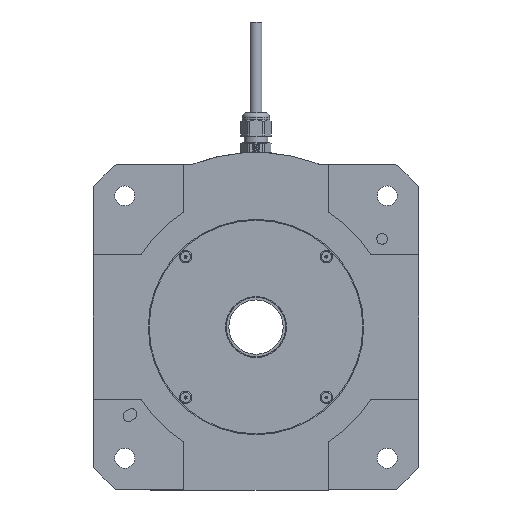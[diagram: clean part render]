
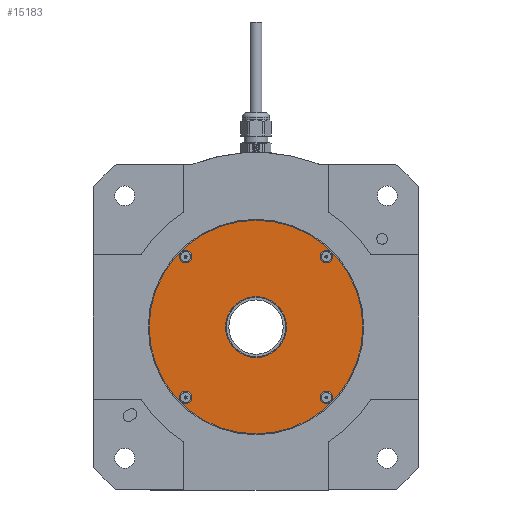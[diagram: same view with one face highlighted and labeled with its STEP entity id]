
A CAD part, front view. The second image highlights one B-rep face of the part: STEP entity #15183.
In plain terms, the highlighted planar face has unit normal (0, -1, 0).
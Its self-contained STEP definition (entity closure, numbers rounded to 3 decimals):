
#325 = FACE_BOUND ( 'NONE', #7493, .T. ) ;
#399 = EDGE_CURVE ( 'NONE', #23488, #20926, #9911, .T. ) ;
#423 = AXIS2_PLACEMENT_3D ( 'NONE', #22221, #4414, #12451 ) ;
#429 = ORIENTED_EDGE ( 'NONE', *, *, #18965, .T. ) ;
#623 = DIRECTION ( 'NONE',  ( 1., 0., 0. ) ) ;
#861 = CARTESIAN_POINT ( 'NONE',  ( 16.8, 1.5, 0. ) ) ;
#1501 = CARTESIAN_POINT ( 'NONE',  ( 0., 1.5, 0. ) ) ;
#2010 = EDGE_CURVE ( 'NONE', #20053, #22693, #10745, .T. ) ;
#2053 = FACE_BOUND ( 'NONE', #25037, .T. ) ;
#2161 = FACE_BOUND ( 'NONE', #15529, .T. ) ;
#2169 = DIRECTION ( 'NONE',  ( 1., 0., 0. ) ) ;
#2255 = DIRECTION ( 'NONE',  ( 0., 1., 0. ) ) ;
#2304 = CARTESIAN_POINT ( 'NONE',  ( 40.891, 1.5, 38.891 ) ) ;
#2397 = CIRCLE ( 'NONE', #14987, 2. ) ;
#2786 = VERTEX_POINT ( 'NONE', #2304 ) ;
#2904 = ORIENTED_EDGE ( 'NONE', *, *, #11982, .T. ) ;
#4123 = DIRECTION ( 'NONE',  ( 1., 0., 0. ) ) ;
#4414 = DIRECTION ( 'NONE',  ( 0., 1., 0. ) ) ;
#4597 = DIRECTION ( 'NONE',  ( 0., 1., 0. ) ) ;
#4661 = CARTESIAN_POINT ( 'NONE',  ( 36.891, 1.5, -38.891 ) ) ;
#4745 = CIRCLE ( 'NONE', #11482, 2. ) ;
#4912 = ORIENTED_EDGE ( 'NONE', *, *, #399, .T. ) ;
#5029 = DIRECTION ( 'NONE',  ( 0., 1., 0. ) ) ;
#5114 = AXIS2_PLACEMENT_3D ( 'NONE', #19691, #9735, #25290 ) ;
#5347 = DIRECTION ( 'NONE',  ( 1., 0., 0. ) ) ;
#5749 = EDGE_CURVE ( 'NONE', #20926, #23488, #6732, .T. ) ;
#5803 = ORIENTED_EDGE ( 'NONE', *, *, #25583, .F. ) ;
#6318 = CARTESIAN_POINT ( 'NONE',  ( -38.891, 1.5, -38.891 ) ) ;
#6477 = FACE_BOUND ( 'NONE', #19977, .T. ) ;
#6732 = CIRCLE ( 'NONE', #19313, 16.8 ) ;
#6992 = CARTESIAN_POINT ( 'NONE',  ( 0., 1.5, 0. ) ) ;
#6994 = DIRECTION ( 'NONE',  ( 1., 0., 0. ) ) ;
#7177 = CARTESIAN_POINT ( 'NONE',  ( -38.891, 1.5, 38.891 ) ) ;
#7420 = CARTESIAN_POINT ( 'NONE',  ( -59., 1.5, 0. ) ) ;
#7493 = EDGE_LOOP ( 'NONE', ( #8240, #23764 ) ) ;
#7818 = CIRCLE ( 'NONE', #14148, 2. ) ;
#8105 = AXIS2_PLACEMENT_3D ( 'NONE', #24759, #5029, #6994 ) ;
#8240 = ORIENTED_EDGE ( 'NONE', *, *, #2010, .T. ) ;
#8379 = CARTESIAN_POINT ( 'NONE',  ( 38.891, 1.5, 38.891 ) ) ;
#8391 = ORIENTED_EDGE ( 'NONE', *, *, #19211, .T. ) ;
#8446 = FACE_BOUND ( 'NONE', #9824, .T. ) ;
#8620 = CARTESIAN_POINT ( 'NONE',  ( -40.891, 1.5, 38.891 ) ) ;
#9179 = ORIENTED_EDGE ( 'NONE', *, *, #17764, .T. ) ;
#9517 = DIRECTION ( 'NONE',  ( 0., 1., 0. ) ) ;
#9735 = DIRECTION ( 'NONE',  ( 0., 1., 0. ) ) ;
#9824 = EDGE_LOOP ( 'NONE', ( #4912, #15236 ) ) ;
#9911 = CIRCLE ( 'NONE', #12827, 16.8 ) ;
#10161 = CARTESIAN_POINT ( 'NONE',  ( 38.891, 1.5, 38.891 ) ) ;
#10174 = CARTESIAN_POINT ( 'NONE',  ( 0., 1.5, 0. ) ) ;
#10382 = VERTEX_POINT ( 'NONE', #23950 ) ;
#10745 = CIRCLE ( 'NONE', #22432, 2. ) ;
#11098 = EDGE_CURVE ( 'NONE', #2786, #10382, #12413, .T. ) ;
#11213 = CARTESIAN_POINT ( 'NONE',  ( -38.891, 1.5, -38.891 ) ) ;
#11482 = AXIS2_PLACEMENT_3D ( 'NONE', #11213, #22320, #12427 ) ;
#11974 = AXIS2_PLACEMENT_3D ( 'NONE', #6992, #15008, #21123 ) ;
#11982 = EDGE_CURVE ( 'NONE', #21393, #20422, #20551, .T. ) ;
#12369 = CARTESIAN_POINT ( 'NONE',  ( -38.891, 1.5, 38.891 ) ) ;
#12413 = CIRCLE ( 'NONE', #17446, 2. ) ;
#12427 = DIRECTION ( 'NONE',  ( 1., 0., 0. ) ) ;
#12451 = DIRECTION ( 'NONE',  ( 1., 0., 0. ) ) ;
#12462 = VERTEX_POINT ( 'NONE', #21031 ) ;
#12827 = AXIS2_PLACEMENT_3D ( 'NONE', #14020, #16079, #2169 ) ;
#12860 = VERTEX_POINT ( 'NONE', #7420 ) ;
#13820 = EDGE_CURVE ( 'NONE', #12860, #15214, #16524, .T. ) ;
#14020 = CARTESIAN_POINT ( 'NONE',  ( 0., 1.5, 0. ) ) ;
#14022 = VERTEX_POINT ( 'NONE', #16658 ) ;
#14148 = AXIS2_PLACEMENT_3D ( 'NONE', #6318, #2255, #18246 ) ;
#14372 = CARTESIAN_POINT ( 'NONE',  ( 59., 1.5, 0. ) ) ;
#14503 = DIRECTION ( 'NONE',  ( 0., 1., 0. ) ) ;
#14987 = AXIS2_PLACEMENT_3D ( 'NONE', #7177, #23531, #5347 ) ;
#15008 = DIRECTION ( 'NONE',  ( 0., 1., 0. ) ) ;
#15148 = DIRECTION ( 'NONE',  ( 1., 0., 0. ) ) ;
#15183 = ADVANCED_FACE ( 'NONE', ( #2053, #2161, #325, #6477, #20219, #8446 ), #22079, .F. ) ;
#15214 = VERTEX_POINT ( 'NONE', #14372 ) ;
#15236 = ORIENTED_EDGE ( 'NONE', *, *, #5749, .T. ) ;
#15331 = AXIS2_PLACEMENT_3D ( 'NONE', #10174, #14503, #22447 ) ;
#15529 = EDGE_LOOP ( 'NONE', ( #16280, #8391 ) ) ;
#16079 = DIRECTION ( 'NONE',  ( 0., 1., 0. ) ) ;
#16118 = EDGE_CURVE ( 'NONE', #14022, #12462, #7818, .T. ) ;
#16280 = ORIENTED_EDGE ( 'NONE', *, *, #16118, .T. ) ;
#16497 = DIRECTION ( 'NONE',  ( 0., 1., 0. ) ) ;
#16524 = CIRCLE ( 'NONE', #11974, 59. ) ;
#16658 = CARTESIAN_POINT ( 'NONE',  ( -36.891, 1.5, -38.891 ) ) ;
#16794 = EDGE_CURVE ( 'NONE', #22693, #20053, #2397, .T. ) ;
#16834 = ORIENTED_EDGE ( 'NONE', *, *, #13820, .F. ) ;
#17112 = CIRCLE ( 'NONE', #25855, 2. ) ;
#17446 = AXIS2_PLACEMENT_3D ( 'NONE', #10161, #21936, #4123 ) ;
#17764 = EDGE_CURVE ( 'NONE', #10382, #2786, #17112, .T. ) ;
#17784 = EDGE_LOOP ( 'NONE', ( #16834, #5803 ) ) ;
#18246 = DIRECTION ( 'NONE',  ( 1., 0., 0. ) ) ;
#18419 = CIRCLE ( 'NONE', #423, 59. ) ;
#18823 = CARTESIAN_POINT ( 'NONE',  ( -36.891, 1.5, 38.891 ) ) ;
#18965 = EDGE_CURVE ( 'NONE', #20422, #21393, #23569, .T. ) ;
#19211 = EDGE_CURVE ( 'NONE', #12462, #14022, #4745, .T. ) ;
#19313 = AXIS2_PLACEMENT_3D ( 'NONE', #1501, #9517, #15148 ) ;
#19461 = CARTESIAN_POINT ( 'NONE',  ( 40.891, 1.5, -38.891 ) ) ;
#19612 = ORIENTED_EDGE ( 'NONE', *, *, #11098, .T. ) ;
#19691 = CARTESIAN_POINT ( 'NONE',  ( 38.891, 1.5, -38.891 ) ) ;
#19977 = EDGE_LOOP ( 'NONE', ( #19612, #9179 ) ) ;
#20053 = VERTEX_POINT ( 'NONE', #18823 ) ;
#20219 = FACE_OUTER_BOUND ( 'NONE', #17784, .T. ) ;
#20422 = VERTEX_POINT ( 'NONE', #19461 ) ;
#20551 = CIRCLE ( 'NONE', #5114, 2. ) ;
#20628 = CARTESIAN_POINT ( 'NONE',  ( -16.8, 1.5, 0. ) ) ;
#20926 = VERTEX_POINT ( 'NONE', #861 ) ;
#21031 = CARTESIAN_POINT ( 'NONE',  ( -40.891, 1.5, -38.891 ) ) ;
#21123 = DIRECTION ( 'NONE',  ( 1., 0., 0. ) ) ;
#21393 = VERTEX_POINT ( 'NONE', #4661 ) ;
#21936 = DIRECTION ( 'NONE',  ( 0., 1., 0. ) ) ;
#22079 = PLANE ( 'NONE',  #15331 ) ;
#22221 = CARTESIAN_POINT ( 'NONE',  ( 0., 1.5, 0. ) ) ;
#22320 = DIRECTION ( 'NONE',  ( 0., 1., 0. ) ) ;
#22432 = AXIS2_PLACEMENT_3D ( 'NONE', #12369, #4597, #24607 ) ;
#22447 = DIRECTION ( 'NONE',  ( 1., 0., 0. ) ) ;
#22693 = VERTEX_POINT ( 'NONE', #8620 ) ;
#23488 = VERTEX_POINT ( 'NONE', #20628 ) ;
#23531 = DIRECTION ( 'NONE',  ( 0., 1., 0. ) ) ;
#23569 = CIRCLE ( 'NONE', #8105, 2. ) ;
#23764 = ORIENTED_EDGE ( 'NONE', *, *, #16794, .T. ) ;
#23950 = CARTESIAN_POINT ( 'NONE',  ( 36.891, 1.5, 38.891 ) ) ;
#24607 = DIRECTION ( 'NONE',  ( 1., 0., 0. ) ) ;
#24759 = CARTESIAN_POINT ( 'NONE',  ( 38.891, 1.5, -38.891 ) ) ;
#25037 = EDGE_LOOP ( 'NONE', ( #429, #2904 ) ) ;
#25290 = DIRECTION ( 'NONE',  ( 1., 0., 0. ) ) ;
#25583 = EDGE_CURVE ( 'NONE', #15214, #12860, #18419, .T. ) ;
#25855 = AXIS2_PLACEMENT_3D ( 'NONE', #8379, #16497, #623 ) ;
